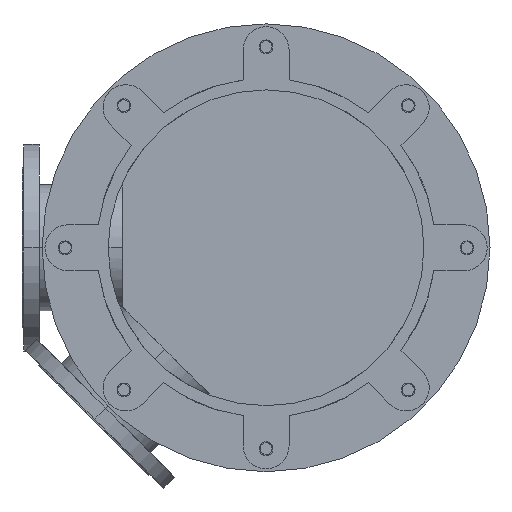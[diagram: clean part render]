
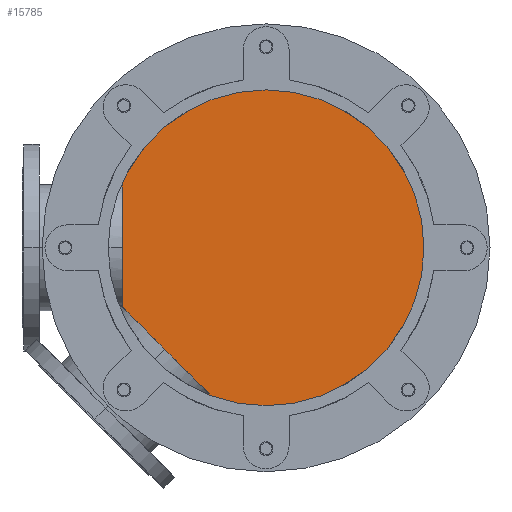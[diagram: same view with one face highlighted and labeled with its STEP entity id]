
A CAD part, front view. The second image highlights one B-rep face of the part: STEP entity #15785.
In plain terms, the highlighted planar face has unit normal (0, -1, 0).
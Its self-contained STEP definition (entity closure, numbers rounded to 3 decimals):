
#3946=CARTESIAN_POINT('',(0.,1117.,0.));
#3947=DIRECTION('',(0.,-1.,0.));
#3948=DIRECTION('',(0.,0.,-1.));
#3949=AXIS2_PLACEMENT_3D('',#3946,#3947,#3948);
#4036=CARTESIAN_POINT('',(0.,1117.,0.));
#4037=DIRECTION('',(0.,-1.,0.));
#4038=DIRECTION('',(0.,0.,1.));
#4039=AXIS2_PLACEMENT_3D('',#4036,#4037,#4038);
#9178=CARTESIAN_POINT('',(0.,1117.,290.));
#9179=CARTESIAN_POINT('',(0.,1117.,-290.));
#9180=VERTEX_POINT('',#9178);
#9181=VERTEX_POINT('',#9179);
#15776=CARTESIAN_POINT('',(0.,1117.,0.));
#15777=DIRECTION('',(0.,1.,0.));
#15778=DIRECTION('',(0.,0.,-1.));
#15779=AXIS2_PLACEMENT_3D('',#15776,#15777,#15778);
#15780=PLANE('',#15779);
#15781=ORIENTED_EDGE('',*,*,#15756,.F.);
#15782=ORIENTED_EDGE('',*,*,#15661,.F.);
#15783=EDGE_LOOP('',(#15781,#15782));
#15784=FACE_OUTER_BOUND('',#15783,.F.);
#15785=ADVANCED_FACE('',(#15784),#15780,.F.);
#3950=CIRCLE('',#3949,290.);
#4040=CIRCLE('',#4039,290.);
#15661=EDGE_CURVE('',#9181,#9180,#3950,.T.);
#15756=EDGE_CURVE('',#9180,#9181,#4040,.T.);
